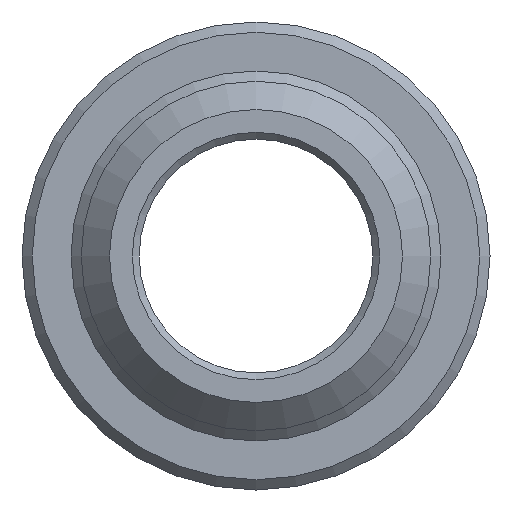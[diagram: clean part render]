
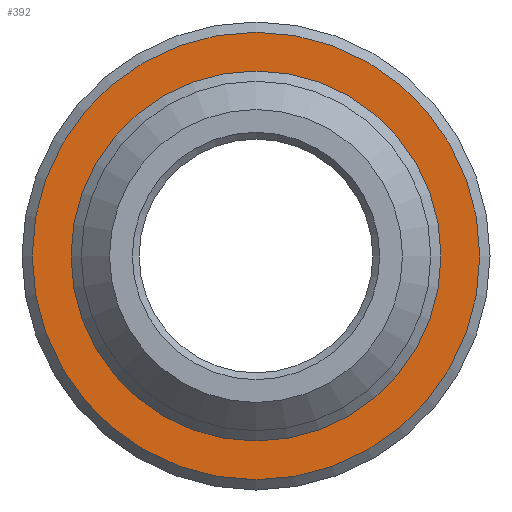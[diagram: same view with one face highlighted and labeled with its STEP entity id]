
A CAD part, front view. The second image highlights one B-rep face of the part: STEP entity #392.
In plain terms, the highlighted planar face has unit normal (0, -1, 0).
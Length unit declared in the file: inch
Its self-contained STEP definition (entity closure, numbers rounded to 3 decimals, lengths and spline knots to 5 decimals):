
#33=FACE_BOUND('',#86,.T.);
#44=PLANE('',#443);
#60=FACE_OUTER_BOUND('',#85,.T.);
#85=EDGE_LOOP('',(#316));
#86=EDGE_LOOP('',(#317));
#158=CIRCLE('',#442,0.27154);
#159=CIRCLE('',#444,0.3285);
#195=VERTEX_POINT('',#678);
#196=VERTEX_POINT('',#682);
#243=EDGE_CURVE('',#195,#195,#158,.T.);
#244=EDGE_CURVE('',#196,#196,#159,.T.);
#316=ORIENTED_EDGE('',*,*,#244,.F.);
#317=ORIENTED_EDGE('',*,*,#243,.F.);
#392=ADVANCED_FACE('',(#60,#33),#44,.T.);
#442=AXIS2_PLACEMENT_3D('',#680,#536,#537);
#443=AXIS2_PLACEMENT_3D('',#681,#538,#539);
#444=AXIS2_PLACEMENT_3D('',#683,#540,#541);
#536=DIRECTION('center_axis',(0.,-1.,0.));
#537=DIRECTION('ref_axis',(0.,0.,-1.));
#538=DIRECTION('center_axis',(0.,-1.,0.));
#539=DIRECTION('ref_axis',(0.,0.,-1.));
#540=DIRECTION('center_axis',(0.,1.,0.));
#541=DIRECTION('ref_axis',(0.,0.,1.));
#678=CARTESIAN_POINT('',(0.,12.,0.27154));
#680=CARTESIAN_POINT('Origin',(0.,12.,0.));
#681=CARTESIAN_POINT('Origin',(0.,12.,-0.27));
#682=CARTESIAN_POINT('',(0.,12.,-0.3285));
#683=CARTESIAN_POINT('Origin',(0.,12.,0.));
